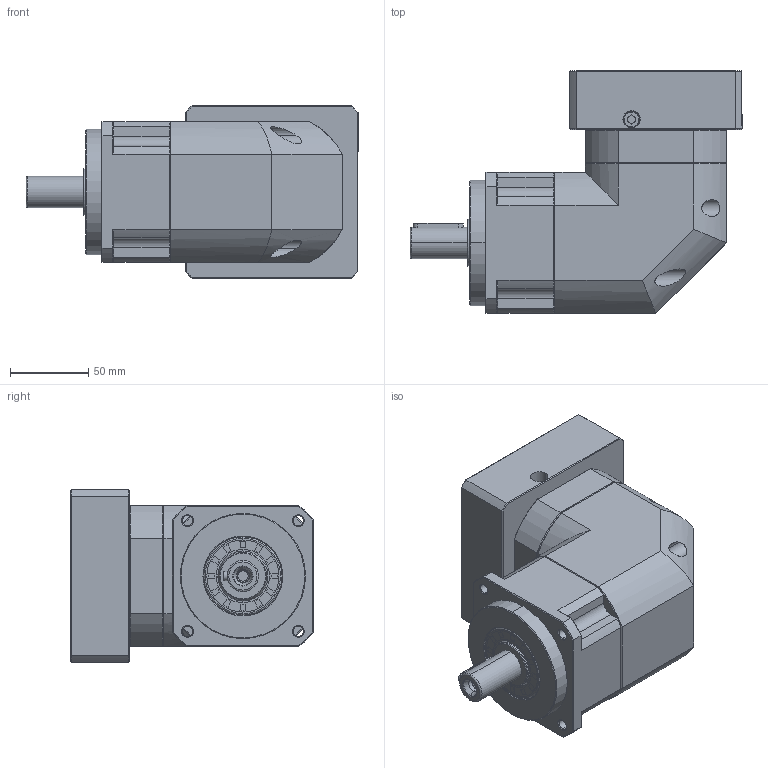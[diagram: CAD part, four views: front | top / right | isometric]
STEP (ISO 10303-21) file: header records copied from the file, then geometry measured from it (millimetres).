
FILE_DESCRIPTION (( 'STEP AP214' ), '1' );
FILE_NAME ('ZPBR090-D20-L1-P1-24-95-130-M8.step', '2024-06-07T18:30:00', ( 'Windows 蚚誧' ), ( 'Organization' ), 'SwSTEP 2.0', 'SolidWorks 2016', '' );
FILE_SCHEMA (( 'AUTOMOTIVE_DESIGN' ));
Length unit declared in the file: millimetre
Products named in the file (1): ZPBR090-D20-L1-P1-24-95-130-M8
Bounding box: 212 x 155 x 110 mm (x, y, z)
Surface area: 154013.7 mm2 (no closed solid volume)
Topology: 0 solids, 32 shells, 1817 faces, 4940 edges, 3179 vertices
Faces by surface type: plane 971, bspline 373, cone 240, cylinder 216, torus 17
Entity records: 93478 total; most frequent: CARTESIAN_POINT 47043, ORIENTED_EDGE 9700, DIRECTION 7537, EDGE_CURVE 4886, LINE 3245, VECTOR 3245, VERTEX_POINT 3146, AXIS2_PLACEMENT_3D 2146
